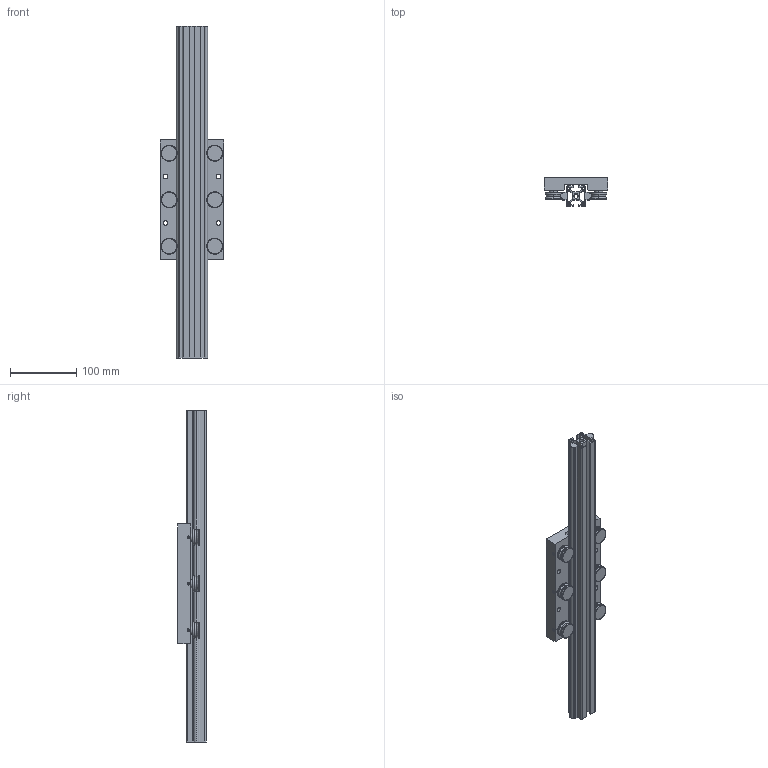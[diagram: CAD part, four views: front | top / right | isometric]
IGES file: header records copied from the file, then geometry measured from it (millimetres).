
Start section: SolidWorks IGES file using analytic representation for surfaces
Bounding box: 96 x 43 x 500 mm (x, y, z)
Surface area: 250703 mm2 (no closed solid volume)
Topology: 0 solids, 0 shells, 463 faces, 7110 edges, 7110 vertices
Faces by surface type: revolution 241, bspline 222
